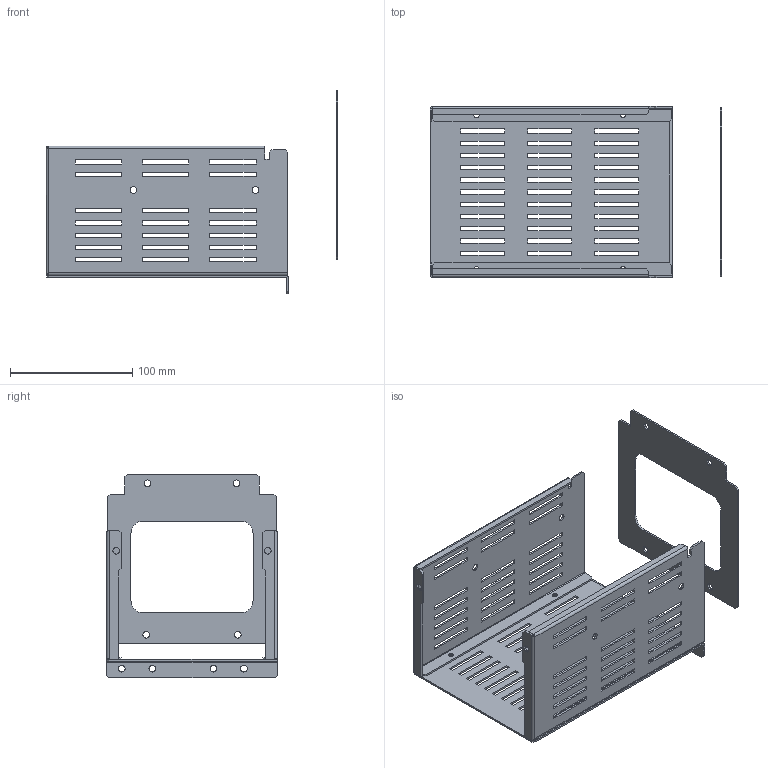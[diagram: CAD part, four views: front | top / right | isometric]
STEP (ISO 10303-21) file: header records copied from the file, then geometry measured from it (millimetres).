
FILE_DESCRIPTION(('CAx-IF Rec.Pracs.---Model Styling and Organization---1.2---2011-12-15','CAx-IF Rec.Pracs.---Geometric and Assembly Validation Properties---4.1---2014-06-16','CAx-IF Rec.Pracs.---PMI Polyline Presentation---2.0---2013-05-24'),'2;1');
FILE_NAME('R5M2W3MST3C.stp','2021-05-05T13:05:27+03:00',(''),(''),'STEP Interface 4.4 by CT CoreTechnologie','3D_Evolution4.4 by CT CoreTechnologie','');
FILE_SCHEMA(('AUTOMOTIVE_DESIGN { 1 0 10303 214 1 1 1 1 }'));
Length unit declared in the file: millimetre
Products named in the file (5): R5M2W3MST3C; RB.1263.00.00.0_-01; RB.1263.00.00.0_-00; RB.1458.00.00.0_-01; RB.1459.00.00.0_-01
Assembly tree (4 placements, depth 2):
  R5M2W3MST3C
    RB.1263.00.00.0_-01
    RB.1263.00.00.0_-00
    RB.1458.00.00.0_-01
    RB.1459.00.00.0_-01
Bounding box: 239 x 140 x 166.75 mm (x, y, z)
Surface area: 173511.9 mm2 (no closed solid volume)
Topology: 0 solids, 4 shells, 470 faces, 1340 edges, 878 vertices
Faces by surface type: plane 400, cylinder 62, bspline 8
Entity records: 15851 total; most frequent: CARTESIAN_POINT 2946, ORIENTED_EDGE 2680, DIRECTION 2387, EDGE_CURVE 1340, VECTOR 1213, LINE 1213, VERTEX_POINT 878, EDGE_LOOP 666
